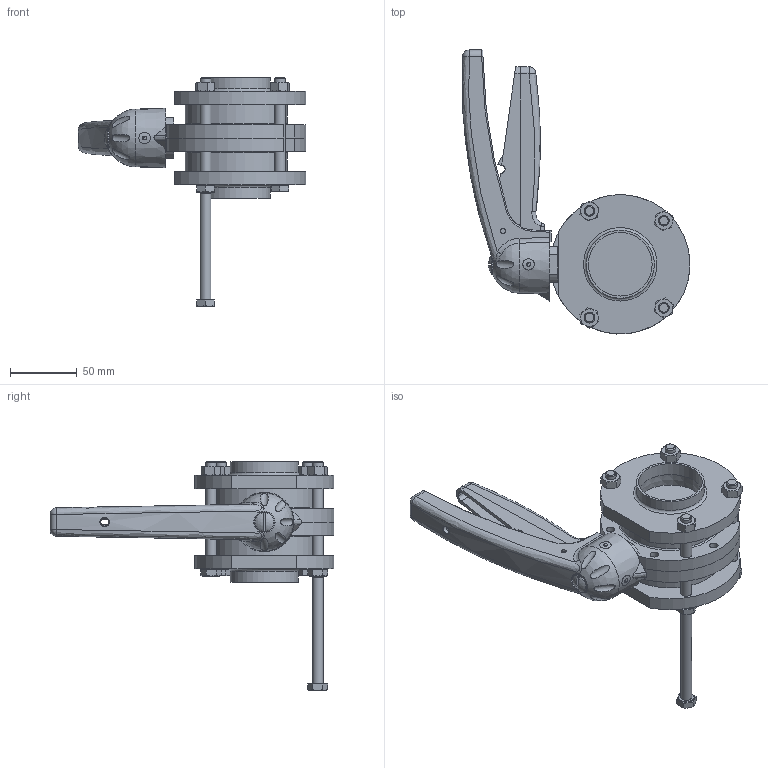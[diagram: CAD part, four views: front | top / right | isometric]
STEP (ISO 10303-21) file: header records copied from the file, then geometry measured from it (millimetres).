
FILE_DESCRIPTION(/* description */ ('VVF VALV.FARF.DN50.8X1.65 WAF4 316 HNBR LEVA 5POS.'),/* implementation_level */ '2;1');
FILE_NAME(/* name */ 'C:\_DED_PWS\MENI-A\DB\B\EBA\BEBAD9200BHAA-00^SAGOMA.step',/* time_stamp */ '2025-05-23T15:42:56+02:00',/* author */ (''),/* organization */ (''),/* preprocessor_version */ 'ST-DEVELOPER v20',/* originating_system */ 'Autodesk Inventor 2022',/* authorisation */ '');
FILE_SCHEMA (('CONFIG_CONTROL_DESIGN'));
Length unit declared in the file: millimetre
Products named in the file (6): BEBAD9200BHAA; UNI 5588 - M8; UNI 5739 - M8 x 80; TWD030050BBA; TPM022200BBA; Maniglia-5-posizioni-nuova-versione finale 01-2008- 25 - - 65
Assembly tree (14 placements, depth 2):
  BEBAD9200BHAA
    TPM022200BBA  x2
    UNI 5588 - M8  x4
    UNI 5739 - M8 x 80  x5
    TWD030050BBA  x2
    Maniglia-5-posizioni-nuova-versione finale 01-2008- 25 - - 65
Bounding box: 169.75 x 211.92 x 170.6 mm (x, y, z)
Volume: 550280.1 mm3; surface area: 161043.5 mm2
Topology: 14 solids, 15 shells, 663 faces, 1628 edges, 1020 vertices
Faces by surface type: plane 288, cylinder 142, cone 121, bspline 81, sphere 18, torus 13
Full cylindrical faces by diameter (mm): 4 x3, 6 x2, 6.2 x12, 6.5 x1, 6.647 x4, 8 x5, 8.2 x12, 11.63 x5, 13 x1, 14.5 x1, 47.5 x2, 50.8 x2, 76 x2
Entity records: 24103 total; most frequent: CARTESIAN_POINT 12336, ORIENTED_EDGE 2462, DIRECTION 2148, EDGE_CURVE 1231, AXIS2_PLACEMENT_3D 783, VERTEX_POINT 778, LINE 582, VECTOR 582
